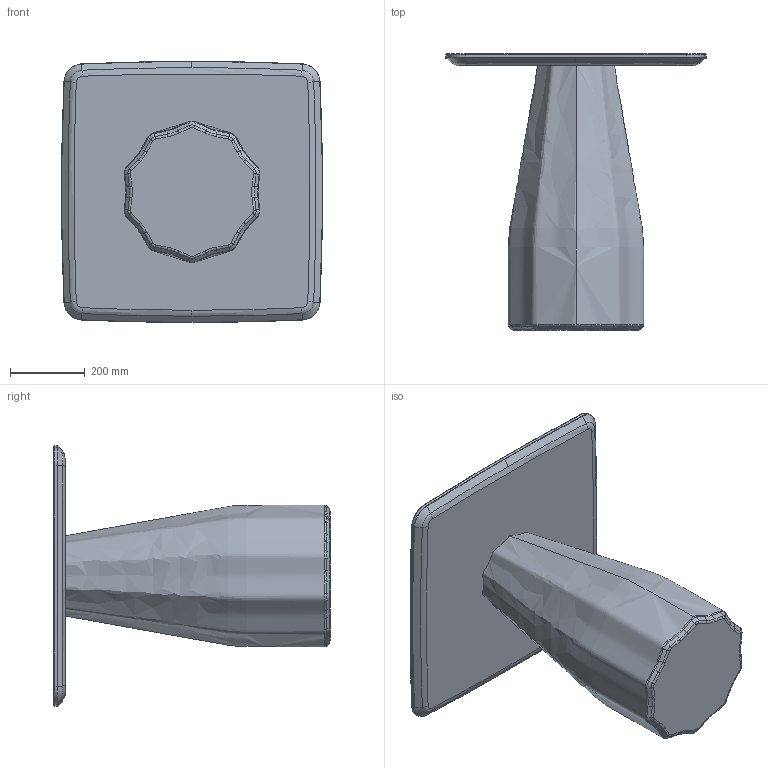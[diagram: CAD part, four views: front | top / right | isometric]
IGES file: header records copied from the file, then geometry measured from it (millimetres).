
Start section: SolidWorks IGES file using analytic representation for surfaces
Global section: file name: Z:\01-VICCARBE\VICCARBE TECNICO 2018\6.-Studio VCCB\Otros\Burin\Modelado\WEB\Nueva carpeta\BurinH74C70.IGS; native system: SolidWorks 2013; preprocessor: SolidWorks 2013; author: Usuario; date: 190219.125734; units: millimetre
Bounding box: 699.63 x 740 x 699.67 mm (x, y, z)
Volume: 70148555.6 mm3; surface area: 1855174.6 mm2
Topology: 2 solids, 2 shells, 171 faces, 427 edges, 260 vertices
Faces by surface type: bspline 122, revolution 45, plane 4
